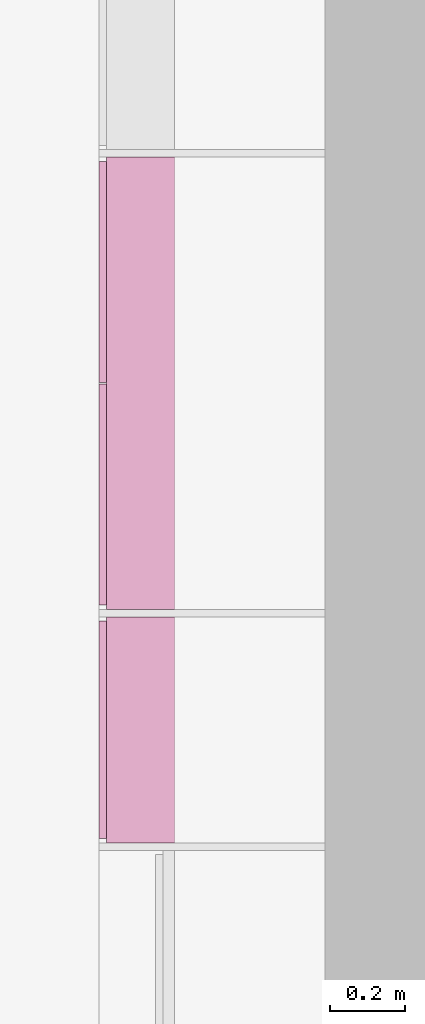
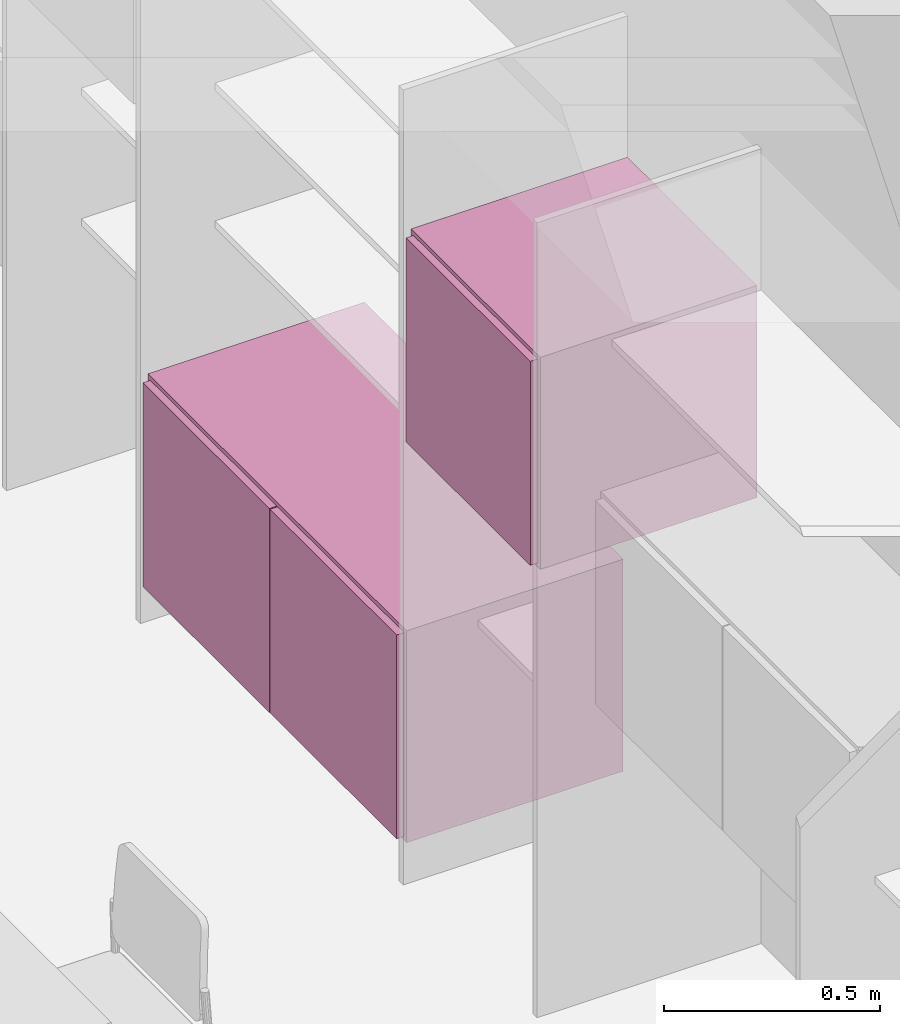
# One storey, part 53 of 64: 2 furnishings.
"""IFC2X3 building model written with IfcOpenShell, lengths in metres."""

from ifc_helpers import new_model, entity, si_unit, converted_unit, derived_unit, direction, frame, origin, place, context, subcontext, project, spatial, faceted_brep, source, transform, mapped, material, type_object, type_shapes, element, save


model = new_model("IFC2X3")

# Units and contexts
model_context = context("Model", 3, precision=1e-05, world=origin(), true_north=direction((6.123031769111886e-17, 1.0)))
body_context = subcontext(model_context, "Body", "Model", "MODEL_VIEW")
ifc_project = project(units=[si_unit("LENGTHUNIT", "METRE"), si_unit("AREAUNIT", "SQUARE_METRE"), si_unit("VOLUMEUNIT", "CUBIC_METRE"), converted_unit("PLANEANGLEUNIT", "DEGREE", entity("IfcRatioMeasure", 0.017453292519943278), si_unit("PLANEANGLEUNIT", "RADIAN"), dimensions=[0, 0, 0, 0, 0, 0, 0]), si_unit("MASSUNIT", "GRAM", prefix="KILO"), derived_unit("MASSDENSITYUNIT", [(si_unit("MASSUNIT", "GRAM", prefix="KILO"), 1), (si_unit("LENGTHUNIT", "METRE"), -3)]), derived_unit("MOMENTOFINERTIAUNIT", [(si_unit("LENGTHUNIT", "METRE"), 4)]), si_unit("TIMEUNIT", "SECOND"), si_unit("FREQUENCYUNIT", "HERTZ"), si_unit("THERMODYNAMICTEMPERATUREUNIT", "DEGREE_CELSIUS"), derived_unit("THERMALTRANSMITTANCEUNIT", [(si_unit("MASSUNIT", "GRAM", prefix="KILO"), 1), (si_unit("THERMODYNAMICTEMPERATUREUNIT", "KELVIN"), -1), (si_unit("TIMEUNIT", "SECOND"), -3)]), derived_unit("THERMALCONDUCTANCEUNIT", [(si_unit("MASSUNIT", "GRAM", prefix="KILO"), 1), (si_unit("LENGTHUNIT", "METRE"), 1), (si_unit("THERMODYNAMICTEMPERATUREUNIT", "KELVIN"), -1), (si_unit("TIMEUNIT", "SECOND"), -3)]), derived_unit("VOLUMETRICFLOWRATEUNIT", [(si_unit("LENGTHUNIT", "METRE"), 3), (si_unit("TIMEUNIT", "SECOND"), -1)]), derived_unit("MASSFLOWRATEUNIT", [(si_unit("MASSUNIT", "GRAM", prefix="KILO"), 1), (si_unit("TIMEUNIT", "SECOND"), -1)]), derived_unit("ROTATIONALFREQUENCYUNIT", [(si_unit("TIMEUNIT", "SECOND"), -1)]), si_unit("ELECTRICCURRENTUNIT", "AMPERE"), si_unit("ELECTRICVOLTAGEUNIT", "VOLT"), si_unit("POWERUNIT", "WATT"), si_unit("FORCEUNIT", "NEWTON", prefix="KILO"), si_unit("ILLUMINANCEUNIT", "LUX"), si_unit("LUMINOUSFLUXUNIT", "LUMEN"), si_unit("LUMINOUSINTENSITYUNIT", "CANDELA"), derived_unit("USERDEFINED", [(si_unit("MASSUNIT", "GRAM", prefix="KILO"), -1), (si_unit("LENGTHUNIT", "METRE"), -2), (si_unit("TIMEUNIT", "SECOND"), 3), (si_unit("LUMINOUSFLUXUNIT", "LUMEN"), 1)]), derived_unit("USERDEFINED", [(si_unit("MASSUNIT", "GRAM", prefix="KILO"), 1), (si_unit("LENGTHUNIT", "METRE"), 3), (si_unit("TIMEUNIT", "SECOND"), -3), (si_unit("ELECTRICCURRENTUNIT", "AMPERE"), -2)]), derived_unit("USERDEFINED", [(si_unit("LENGTHUNIT", "METRE"), 2), (si_unit("TIMEUNIT", "SECOND"), -2)]), derived_unit("SOUNDPOWERUNIT", [(si_unit("MASSUNIT", "GRAM", prefix="KILO"), 1), (si_unit("LENGTHUNIT", "METRE"), 2), (si_unit("TIMEUNIT", "SECOND"), -3)]), derived_unit("SOUNDPRESSUREUNIT", [(si_unit("MASSUNIT", "GRAM", prefix="KILO"), 1), (si_unit("LENGTHUNIT", "METRE"), -1), (si_unit("TIMEUNIT", "SECOND"), -2)]), derived_unit("LINEARVELOCITYUNIT", [(si_unit("LENGTHUNIT", "METRE"), 1), (si_unit("TIMEUNIT", "SECOND"), -1)]), si_unit("PRESSUREUNIT", "PASCAL"), derived_unit("USERDEFINED", [(si_unit("LENGTHUNIT", "METRE"), -2), (si_unit("MASSUNIT", "GRAM", prefix="KILO"), 1), (si_unit("TIMEUNIT", "SECOND"), -2)]), derived_unit("LINEARFORCEUNIT", [(si_unit("MASSUNIT", "GRAM", prefix="KILO"), 1), (si_unit("LENGTHUNIT", "METRE"), 1), (si_unit("TIMEUNIT", "SECOND"), -2), (si_unit("LENGTHUNIT", "METRE"), -1)]), derived_unit("PLANARFORCEUNIT", [(si_unit("MASSUNIT", "GRAM", prefix="KILO"), 1), (si_unit("LENGTHUNIT", "METRE"), 1), (si_unit("TIMEUNIT", "SECOND"), -2), (si_unit("LENGTHUNIT", "METRE"), -2)]), derived_unit("SPECIFICHEATCAPACITYUNIT", [(si_unit("LENGTHUNIT", "METRE"), 2), (si_unit("TIMEUNIT", "SECOND"), -2), (si_unit("THERMODYNAMICTEMPERATUREUNIT", "KELVIN"), -1)]), derived_unit("VAPORPERMEABILITYUNIT", [(si_unit("TIMEUNIT", "SECOND"), 1), (si_unit("LENGTHUNIT", "METRE"), -1)]), derived_unit("DYNAMICVISCOSITYUNIT", [(si_unit("MASSUNIT", "GRAM", prefix="KILO"), 1), (si_unit("LENGTHUNIT", "METRE"), -1), (si_unit("TIMEUNIT", "SECOND"), -1)]), derived_unit("THERMALEXPANSIONCOEFFICIENTUNIT", [(si_unit("THERMODYNAMICTEMPERATUREUNIT", "KELVIN"), -1)])], contexts=[model_context])

# Site, building, storey
site_placement = place(None, origin())
site = spatial("IfcSite", under=ifc_project, at=site_placement, Name="Default", CompositionType="ELEMENT")
building_placement = place(site_placement, origin())
building = spatial("IfcBuilding", under=site, at=building_placement, CompositionType="ELEMENT")
storey_placement = place(building_placement, origin())
storey = spatial("IfcBuildingStorey", under=building, at=storey_placement, Name="REZ-DE-CHAUSSÉE", CompositionType="ELEMENT", Elevation=0.0)

# Furnishings
ifc_material = material(Name="Peinture - Blanc titanium")
furnishing_element_type_1 = type_object("IfcFurnishingElementType", Name="Symb-0006", material=ifc_material)
shared_shape_1 = source(origin(), body_context, "Body", "Brep", [
    faceted_brep([(0.6000000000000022, 0.01999999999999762, 0.019999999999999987), (0.6000000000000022, 0.01999999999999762, 0.5799999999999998), (0.5800000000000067, 0.01999999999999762, 0.5799999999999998), (0.5800000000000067, 0.01999999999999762, 0.019999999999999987), (0.6000000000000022, 1.1799999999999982, 0.019999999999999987), (0.6000000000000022, 1.1799999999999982, 0.5799999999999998), (0.5800000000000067, 1.1799999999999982, 0.5799999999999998), (0.5800000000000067, 1.1799999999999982, 0.019999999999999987), (0.02000000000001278, 1.199999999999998, 0.0), (0.6000000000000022, 1.199999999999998, 0.0), (0.6000000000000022, 1.1799999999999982, 0.0), (0.02000000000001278, 1.1799999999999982, 0.0), (0.02000000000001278, 1.199999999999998, 0.5999999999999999), (0.6000000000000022, 1.199999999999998, 0.5999999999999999), (0.6000000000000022, 1.1799999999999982, 0.5999999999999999), (0.02000000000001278, 1.1799999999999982, 0.5999999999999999), (0.02000000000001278, 0.01999999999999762, 0.0), (0.6000000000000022, 0.01999999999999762, 0.0), (0.6000000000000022, 0.0, 0.0), (0.02000000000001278, 0.0, 0.0), (0.02000000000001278, 0.01999999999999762, 0.5999999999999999), (0.6000000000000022, 0.01999999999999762, 0.5999999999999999), (0.6000000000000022, 0.0, 0.5999999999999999), (0.02000000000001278, 0.0, 0.5999999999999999), (0.02000000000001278, 1.1799999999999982, 0.019999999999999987), (0.02000000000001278, 0.01999999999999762, 0.019999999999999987), (0.02000000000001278, 1.1799999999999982, 0.5799999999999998), (0.02000000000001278, 0.01999999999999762, 0.5799999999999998), (0.5800000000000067, 0.01999999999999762, 0.0), (0.5800000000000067, 1.1799999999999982, 0.0), (0.02000000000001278, 0.01149999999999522, 0.011499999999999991), (0.0, 0.01149999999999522, 0.011499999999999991), (0.0, 0.598499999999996, 0.011499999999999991), (0.02000000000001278, 0.598499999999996, 0.011499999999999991), (0.02000000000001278, 0.01149999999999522, 0.5884999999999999), (0.0, 0.01149999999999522, 0.5884999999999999), (0.0, 0.598499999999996, 0.5884999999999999), (0.02000000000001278, 0.598499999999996, 0.5884999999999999), (0.02000000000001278, 1.1884999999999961, 0.011499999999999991), (0.02000000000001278, 0.6014999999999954, 0.011499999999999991), (0.0, 0.6014999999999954, 0.011499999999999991), (0.0, 1.1884999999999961, 0.011499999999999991), (0.02000000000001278, 1.1884999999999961, 0.5884999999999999), (0.02000000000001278, 0.6014999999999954, 0.5884999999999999), (0.0, 0.6014999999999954, 0.5884999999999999), (0.0, 1.1884999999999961, 0.5884999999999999)], [[[0, 1, 2, 3]], [[4, 5, 1, 0]], [[1, 5, 6, 2]], [[3, 2, 6, 7]], [[0, 3, 7, 4]], [[7, 6, 5, 4]], [[8, 9, 10, 11]], [[8, 12, 13, 9]], [[9, 13, 14, 10]], [[10, 14, 15, 11]], [[11, 15, 12, 8]], [[15, 14, 13, 12]], [[16, 17, 18, 19]], [[16, 20, 21, 17]], [[17, 21, 22, 18]], [[18, 22, 23, 19]], [[19, 23, 20, 16]], [[23, 22, 21, 20]], [[11, 10, 17, 16]], [[11, 24, 4, 10]], [[10, 4, 0, 17]], [[17, 0, 25, 16]], [[16, 25, 24, 11]], [[25, 0, 4, 24]], [[26, 5, 1, 27]], [[26, 15, 14, 5]], [[5, 14, 21, 1]], [[1, 21, 20, 27]], [[27, 20, 15, 26]], [[20, 21, 14, 15]], [[17, 28, 29, 10]], [[18, 19, 16, 17]], [[10, 11, 8, 9]], [[30, 31, 32, 33]], [[34, 35, 31, 30]], [[31, 35, 36, 32]], [[33, 32, 36, 37]], [[30, 33, 37, 34]], [[37, 36, 35, 34]], [[38, 39, 40, 41]], [[38, 42, 43, 39]], [[39, 43, 44, 40]], [[41, 40, 44, 45]], [[42, 38, 41, 45]], [[43, 42, 45, 44]]]),
])
type_shapes(furnishing_element_type_1, [shared_shape_1])
furnishing_1_placement = place(storey_placement, frame((127.39075227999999, 19.117209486, 0.1)))
element("IfcFurnishingElement", 1, at=furnishing_1_placement, inside=storey, type_object=furnishing_element_type_1, material=ifc_material, Name="Symb-0006 154378:Symb-0006 154378", ObjectType="Symb-0006 154378:Symb-0006 154378", context=body_context, shape_type="MappedRepresentation", body=[
    mapped(shared_shape_1, transform((0.0, 0.0, 0.0), scale=1.0)),
])
furnishing_element_type_2 = type_object("IfcFurnishingElementType", Name="Symb-0007", material=ifc_material)
shared_shape_2 = source(origin(), body_context, "Body", "Brep", [
    faceted_brep([(0.6000000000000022, 0.020000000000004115, 0.020000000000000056), (0.6000000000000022, 0.020000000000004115, 0.5800000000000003), (0.5800000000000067, 0.020000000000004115, 0.5800000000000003), (0.5800000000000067, 0.020000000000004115, 0.020000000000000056), (0.6000000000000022, 0.5800000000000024, 0.020000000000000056), (0.6000000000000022, 0.5800000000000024, 0.5800000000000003), (0.5800000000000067, 0.5800000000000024, 0.5800000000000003), (0.5800000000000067, 0.5800000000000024, 0.020000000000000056), (0.02000000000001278, 0.6000000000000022, 0.0), (0.6000000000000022, 0.6000000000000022, 0.0), (0.6000000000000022, 0.5800000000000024, 0.0), (0.02000000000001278, 0.5800000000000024, 0.0), (0.02000000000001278, 0.6000000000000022, 0.6000000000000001), (0.6000000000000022, 0.6000000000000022, 0.6000000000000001), (0.6000000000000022, 0.5800000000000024, 0.6000000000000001), (0.02000000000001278, 0.5800000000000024, 0.6000000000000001), (0.02000000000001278, 0.020000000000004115, 0.0), (0.6000000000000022, 0.020000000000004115, 0.0), (0.6000000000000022, 0.0, 0.0), (0.02000000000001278, 0.0, 0.0), (0.02000000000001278, 0.020000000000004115, 0.6000000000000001), (0.6000000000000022, 0.020000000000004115, 0.6000000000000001), (0.6000000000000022, 0.0, 0.6000000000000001), (0.02000000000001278, 0.0, 0.6000000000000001), (0.02000000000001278, 0.5800000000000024, 0.020000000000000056), (0.02000000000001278, 0.020000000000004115, 0.020000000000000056), (0.02000000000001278, 0.5800000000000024, 0.5800000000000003), (0.02000000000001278, 0.020000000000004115, 0.5800000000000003), (0.5800000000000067, 0.020000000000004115, 0.0), (0.5800000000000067, 0.5800000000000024, 0.0), (0.02000000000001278, 0.011500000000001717, 0.011500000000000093), (0.0, 0.011500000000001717, 0.011500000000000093), (0.0, 0.5885000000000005, 0.011500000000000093), (0.02000000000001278, 0.5885000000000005, 0.011500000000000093), (0.02000000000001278, 0.011500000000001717, 0.5885000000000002), (0.0, 0.011500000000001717, 0.5885000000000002), (0.0, 0.5885000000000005, 0.5885000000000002), (0.02000000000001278, 0.5885000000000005, 0.5885000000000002)], [[[0, 1, 2, 3]], [[4, 5, 1, 0]], [[1, 5, 6, 2]], [[3, 2, 6, 7]], [[0, 3, 7, 4]], [[7, 6, 5, 4]], [[8, 9, 10, 11]], [[8, 12, 13, 9]], [[9, 13, 14, 10]], [[10, 14, 15, 11]], [[11, 15, 12, 8]], [[15, 14, 13, 12]], [[16, 17, 18, 19]], [[16, 20, 21, 17]], [[17, 21, 22, 18]], [[18, 22, 23, 19]], [[19, 23, 20, 16]], [[23, 22, 21, 20]], [[11, 10, 17, 16]], [[11, 24, 4, 10]], [[10, 4, 0, 17]], [[17, 0, 25, 16]], [[16, 25, 24, 11]], [[25, 0, 4, 24]], [[26, 5, 1, 27]], [[26, 15, 14, 5]], [[5, 14, 21, 1]], [[1, 21, 20, 27]], [[27, 20, 15, 26]], [[20, 21, 14, 15]], [[17, 28, 29, 10]], [[18, 19, 16, 17]], [[10, 11, 8, 9]], [[30, 31, 32, 33]], [[34, 35, 31, 30]], [[31, 35, 36, 32]], [[33, 32, 36, 37]], [[30, 33, 37, 34]], [[37, 36, 35, 34]]]),
])
type_shapes(furnishing_element_type_2, [shared_shape_2])
furnishing_2_placement = place(storey_placement, frame((127.39075227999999, 18.497209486, 1.2499999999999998)))
element("IfcFurnishingElement", 2, at=furnishing_2_placement, inside=storey, type_object=furnishing_element_type_2, material=ifc_material, Name="Symb-0007 154507:Symb-0007 154507", ObjectType="Symb-0007 154507:Symb-0007 154507", context=body_context, shape_type="MappedRepresentation", body=[
    mapped(shared_shape_2, transform((0.0, 0.0, 0.0), scale=1.0)),
])

save(model, "model.ifc")
